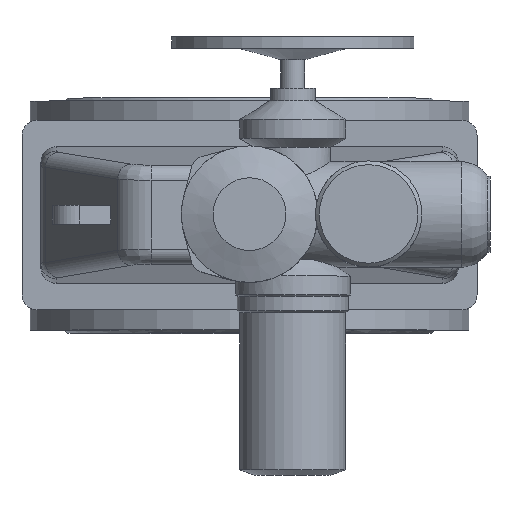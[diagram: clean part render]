
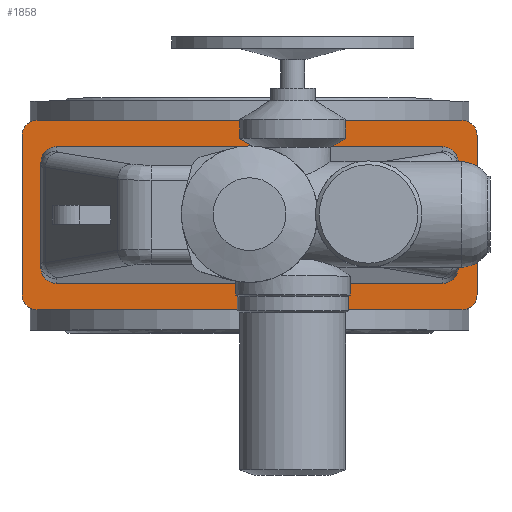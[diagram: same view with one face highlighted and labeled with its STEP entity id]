
A CAD part, top view. The second image highlights one B-rep face of the part: STEP entity #1858.
In plain terms, the highlighted planar face has unit normal (0, 0, 1).
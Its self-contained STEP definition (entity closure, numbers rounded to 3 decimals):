
#1858=ADVANCED_FACE('',(#6362,#6364),#6366,.T.);
#6362=FACE_BOUND('',#6363,.T.);
#6363=EDGE_LOOP('',(#9214,#9215,#9216,#9217,#9218,#9219,#9220,#9221));
#6364=FACE_BOUND('',#6365,.T.);
#6365=EDGE_LOOP('',(#9222,#9223,#9224,#9225,#9226,#9227,#9228,#9229));
#6366=PLANE('',#6367);
#6367=AXIS2_PLACEMENT_3D('',#6368,#6369,#6370);
#6368=CARTESIAN_POINT('',(0.,0.,466.));
#6369=DIRECTION('',(0.,-0.,1.));
#6370=DIRECTION('',(0.,1.,0.));
#9214=ORIENTED_EDGE('',*,*,#10420,.F.);
#9215=ORIENTED_EDGE('',*,*,#10433,.T.);
#9216=ORIENTED_EDGE('',*,*,#10432,.F.);
#9217=ORIENTED_EDGE('',*,*,#10430,.T.);
#9218=ORIENTED_EDGE('',*,*,#10428,.F.);
#9219=ORIENTED_EDGE('',*,*,#10426,.T.);
#9220=ORIENTED_EDGE('',*,*,#10424,.F.);
#9221=ORIENTED_EDGE('',*,*,#10421,.T.);
#9222=ORIENTED_EDGE('',*,*,#10434,.F.);
#9223=ORIENTED_EDGE('',*,*,#10435,.F.);
#9224=ORIENTED_EDGE('',*,*,#10436,.F.);
#9225=ORIENTED_EDGE('',*,*,#10437,.F.);
#9226=ORIENTED_EDGE('',*,*,#10438,.F.);
#9227=ORIENTED_EDGE('',*,*,#10439,.F.);
#9228=ORIENTED_EDGE('',*,*,#10440,.F.);
#9229=ORIENTED_EDGE('',*,*,#10441,.F.);
#10420=EDGE_CURVE('',#11699,#11697,#11701,.F.);
#10421=EDGE_CURVE('',#11702,#11697,#11703,.T.);
#10424=EDGE_CURVE('',#11702,#11705,#11707,.F.);
#10426=EDGE_CURVE('',#11708,#11705,#11710,.T.);
#10428=EDGE_CURVE('',#11708,#11711,#11713,.F.);
#10430=EDGE_CURVE('',#11714,#11711,#11716,.T.);
#10432=EDGE_CURVE('',#11714,#11717,#11719,.F.);
#10433=EDGE_CURVE('',#11699,#11717,#11720,.T.);
#10434=EDGE_CURVE('',#11721,#11722,#11723,.F.);
#10435=EDGE_CURVE('',#11724,#11721,#11725,.T.);
#10436=EDGE_CURVE('',#11726,#11724,#11727,.T.);
#10437=EDGE_CURVE('',#11728,#11726,#11729,.T.);
#10438=EDGE_CURVE('',#11730,#11728,#11731,.F.);
#10439=EDGE_CURVE('',#11732,#11730,#11733,.T.);
#10440=EDGE_CURVE('',#11734,#11732,#11735,.T.);
#10441=EDGE_CURVE('',#11722,#11734,#11736,.T.);
#11697=VERTEX_POINT('',#16655);
#11699=VERTEX_POINT('',#16659);
#11701=CIRCLE('',#16663,20.);
#11702=VERTEX_POINT('',#16667);
#11703=LINE('',#16668,#16669);
#11705=VERTEX_POINT('',#16674);
#11707=CIRCLE('',#16678,20.);
#11708=VERTEX_POINT('',#16682);
#11710=LINE('',#16686,#16687);
#11711=VERTEX_POINT('',#16689);
#11713=CIRCLE('',#16693,20.);
#11714=VERTEX_POINT('',#16697);
#11716=LINE('',#16701,#16702);
#11717=VERTEX_POINT('',#16704);
#11719=CIRCLE('',#16708,20.);
#11720=LINE('',#16712,#16713);
#11721=VERTEX_POINT('',#16715);
#11722=VERTEX_POINT('',#16716);
#11723=(BOUNDED_CURVE()B_SPLINE_CURVE(3,
(#16717,#16718,#16719,#16720),
.UNSPECIFIED.,.F.,.F.)B_SPLINE_CURVE_WITH_KNOTS((4,4),
(0.,1.),
.UNSPECIFIED.)CURVE()GEOMETRIC_REPRESENTATION_ITEM()RATIONAL_B_SPLINE_CURVE((1.,
0.805,0.805,1.))REPRESENTATION_ITEM(''));
#11724=VERTEX_POINT('',#16721);
#11725=LINE('',#16722,#16723);
#11726=VERTEX_POINT('',#16725);
#11727=(BOUNDED_CURVE()B_SPLINE_CURVE(3,
(#16726,#16727,#16728,#16729),
.UNSPECIFIED.,.F.,.F.)B_SPLINE_CURVE_WITH_KNOTS((4,4),
(0.,1.),
.UNSPECIFIED.)CURVE()GEOMETRIC_REPRESENTATION_ITEM()RATIONAL_B_SPLINE_CURVE((1.,
0.805,0.805,1.))REPRESENTATION_ITEM(''));
#11728=VERTEX_POINT('',#16730);
#11729=LINE('',#16731,#16732);
#11730=VERTEX_POINT('',#16734);
#11731=(BOUNDED_CURVE()B_SPLINE_CURVE(3,
(#16735,#16736,#16737,#16738),
.UNSPECIFIED.,.F.,.F.)B_SPLINE_CURVE_WITH_KNOTS((4,4),
(0.,1.),
.UNSPECIFIED.)CURVE()GEOMETRIC_REPRESENTATION_ITEM()RATIONAL_B_SPLINE_CURVE((1.,
0.805,0.805,1.))REPRESENTATION_ITEM(''));
#11732=VERTEX_POINT('',#16739);
#11733=LINE('',#16740,#16741);
#11734=VERTEX_POINT('',#16743);
#11735=(BOUNDED_CURVE()B_SPLINE_CURVE(3,
(#16744,#16745,#16746,#16747),
.UNSPECIFIED.,.F.,.F.)B_SPLINE_CURVE_WITH_KNOTS((4,4),
(0.,1.),
.UNSPECIFIED.)CURVE()GEOMETRIC_REPRESENTATION_ITEM()RATIONAL_B_SPLINE_CURVE((1.,
0.805,0.805,1.))REPRESENTATION_ITEM(''));
#11736=LINE('',#16748,#16749);
#16655=CARTESIAN_POINT('',(-300.,-105.,466.));
#16659=CARTESIAN_POINT('',(-280.,-125.,466.));
#16663=AXIS2_PLACEMENT_3D('',#16664,#16665,#16666);
#16664=CARTESIAN_POINT('',(-280.,-105.,466.));
#16665=DIRECTION('',(0.,-0.,1.));
#16666=DIRECTION('',(-1.,0.,0.));
#16667=CARTESIAN_POINT('',(-300.,105.,466.));
#16668=CARTESIAN_POINT('',(-300.,105.,466.));
#16669=VECTOR('',#16670,1.);
#16670=DIRECTION('',(0.,-1.,0.));
#16674=CARTESIAN_POINT('',(-280.,125.,466.));
#16678=AXIS2_PLACEMENT_3D('',#16679,#16680,#16681);
#16679=CARTESIAN_POINT('',(-280.,105.,466.));
#16680=DIRECTION('',(0.,-0.,1.));
#16681=DIRECTION('',(0.,1.,0.));
#16682=CARTESIAN_POINT('',(280.,125.,466.));
#16686=CARTESIAN_POINT('',(280.,125.,466.));
#16687=VECTOR('',#16688,1.);
#16688=DIRECTION('',(-1.,0.,0.));
#16689=CARTESIAN_POINT('',(300.,105.,466.));
#16693=AXIS2_PLACEMENT_3D('',#16694,#16695,#16696);
#16694=CARTESIAN_POINT('',(280.,105.,466.));
#16695=DIRECTION('',(0.,-0.,1.));
#16696=DIRECTION('',(1.,0.,0.));
#16697=CARTESIAN_POINT('',(300.,-105.,466.));
#16701=CARTESIAN_POINT('',(300.,-105.,466.));
#16702=VECTOR('',#16703,1.);
#16703=DIRECTION('',(0.,1.,0.));
#16704=CARTESIAN_POINT('',(280.,-125.,466.));
#16708=AXIS2_PLACEMENT_3D('',#16709,#16710,#16711);
#16709=CARTESIAN_POINT('',(280.,-105.,466.));
#16710=DIRECTION('',(0.,-0.,1.));
#16711=DIRECTION('',(0.,-1.,0.));
#16712=CARTESIAN_POINT('',(-280.,-125.,466.));
#16713=VECTOR('',#16714,1.);
#16714=DIRECTION('',(1.,0.,0.));
#16715=CARTESIAN_POINT('',(255.,-90.,466.));
#16716=CARTESIAN_POINT('',(275.,-69.924,466.));
#16717=CARTESIAN_POINT('',(275.,-69.924,466.));
#16718=CARTESIAN_POINT('',(275.,-81.684,466.));
#16719=CARTESIAN_POINT('',(266.716,-90.,466.));
#16720=CARTESIAN_POINT('',(255.,-90.,466.));
#16721=CARTESIAN_POINT('',(-255.,-90.,466.));
#16722=CARTESIAN_POINT('',(-255.,-90.,466.));
#16723=VECTOR('',#16724,1.);
#16724=DIRECTION('',(1.,0.,0.));
#16725=CARTESIAN_POINT('',(-275.,-69.924,466.));
#16726=CARTESIAN_POINT('',(-275.,-69.924,466.));
#16727=CARTESIAN_POINT('',(-275.,-81.684,466.));
#16728=CARTESIAN_POINT('',(-266.716,-90.,466.));
#16729=CARTESIAN_POINT('',(-255.,-90.,466.));
#16730=CARTESIAN_POINT('',(-275.,69.924,466.));
#16731=CARTESIAN_POINT('',(-275.,69.924,466.));
#16732=VECTOR('',#16733,1.);
#16733=DIRECTION('',(0.,-1.,0.));
#16734=CARTESIAN_POINT('',(-255.,90.,466.));
#16735=CARTESIAN_POINT('',(-275.,69.924,466.));
#16736=CARTESIAN_POINT('',(-275.,81.684,466.));
#16737=CARTESIAN_POINT('',(-266.716,90.,466.));
#16738=CARTESIAN_POINT('',(-255.,90.,466.));
#16739=CARTESIAN_POINT('',(255.,90.,466.));
#16740=CARTESIAN_POINT('',(255.,90.,466.));
#16741=VECTOR('',#16742,1.);
#16742=DIRECTION('',(-1.,0.,0.));
#16743=CARTESIAN_POINT('',(275.,69.924,466.));
#16744=CARTESIAN_POINT('',(275.,69.924,466.));
#16745=CARTESIAN_POINT('',(275.,81.684,466.));
#16746=CARTESIAN_POINT('',(266.716,90.,466.));
#16747=CARTESIAN_POINT('',(255.,90.,466.));
#16748=CARTESIAN_POINT('',(275.,-69.924,466.));
#16749=VECTOR('',#16750,1.);
#16750=DIRECTION('',(0.,1.,0.));
